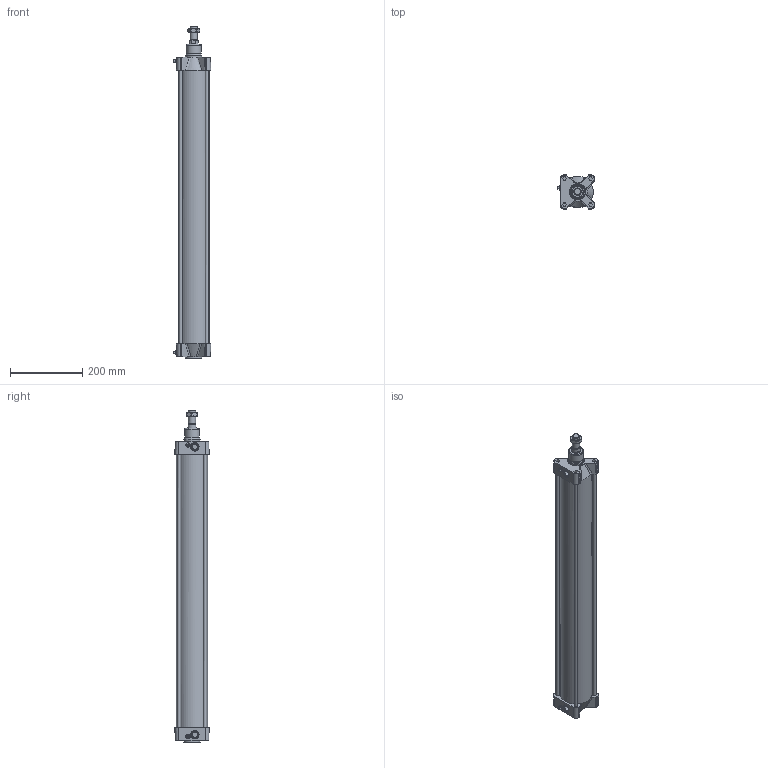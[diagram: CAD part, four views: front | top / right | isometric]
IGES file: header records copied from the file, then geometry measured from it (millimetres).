
Global section: file name: 1393_080_0700_01; native system: Autodesk Inventor 2014; preprocessor: unknown; author: A. Manieri; date: 20151130.150827; units: millimetre
Bounding box: 104 x 95 x 918 mm (x, y, z)
Volume: 1952137 mm3; surface area: 639724.8 mm2
Topology: 3 solids, 5 shells, 233 faces, 578 edges, 377 vertices
Faces by surface type: bspline 233
